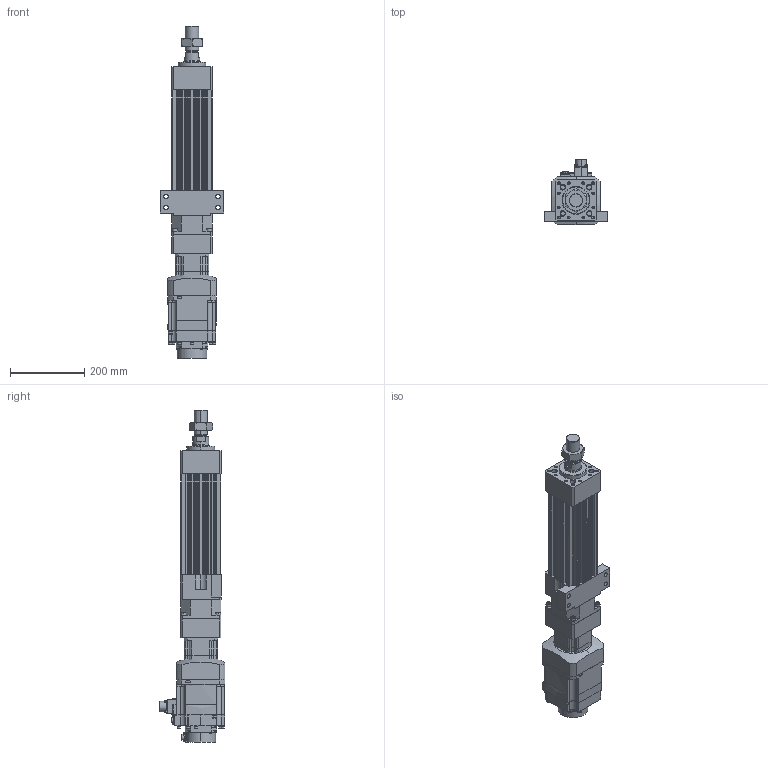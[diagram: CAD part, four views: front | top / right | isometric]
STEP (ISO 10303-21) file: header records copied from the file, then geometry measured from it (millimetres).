
FILE_DESCRIPTION (( 'STEP AP203' ), '1' );
FILE_NAME ('HES110NS(HS)-S100-W010G00-M-FFC.STEP', '2026-06-10T06:01:13', ( 'tms' ), ( '' ), 'SwSTEP 2.0', 'SolidWorks 2013', '' );
FILE_SCHEMA (( 'CONFIG_CONTROL_DESIGN' ));
Length unit declared in the file: millimetre
Products named in the file (8): M36X1.5P; HES110-M-ROD-100; AB0902; AB0901; HG-SR102B; HES110-FFC-100; HES110NS(HS)-S100-W010G00-M-FFC; HES110-S-G90
Assembly tree (7 placements, depth 2):
  HES110NS(HS)-S100-W010G00-M-FFC
    HES110-FFC-100
    HES110-M-ROD-100
    M36X1.5P
    HES110-S-G90
    AB0901
    AB0902
    HG-SR102B
Bounding box: 170 x 177.49 x 893 mm (x, y, z)
Volume: 6125276.3 mm3; surface area: 744255.6 mm2
Topology: 5 solids, 12 shells, 1228 faces, 3114 edges, 2013 vertices
Faces by surface type: cylinder 568, plane 554, cone 92, bspline 10, torus 4
Entity records: 39020 total; most frequent: CARTESIAN_POINT 7659, DIRECTION 6711, ORIENTED_EDGE 6152, EDGE_CURVE 3086, AXIS2_PLACEMENT_3D 2489, VERTEX_POINT 2013, LINE 1733, VECTOR 1733
